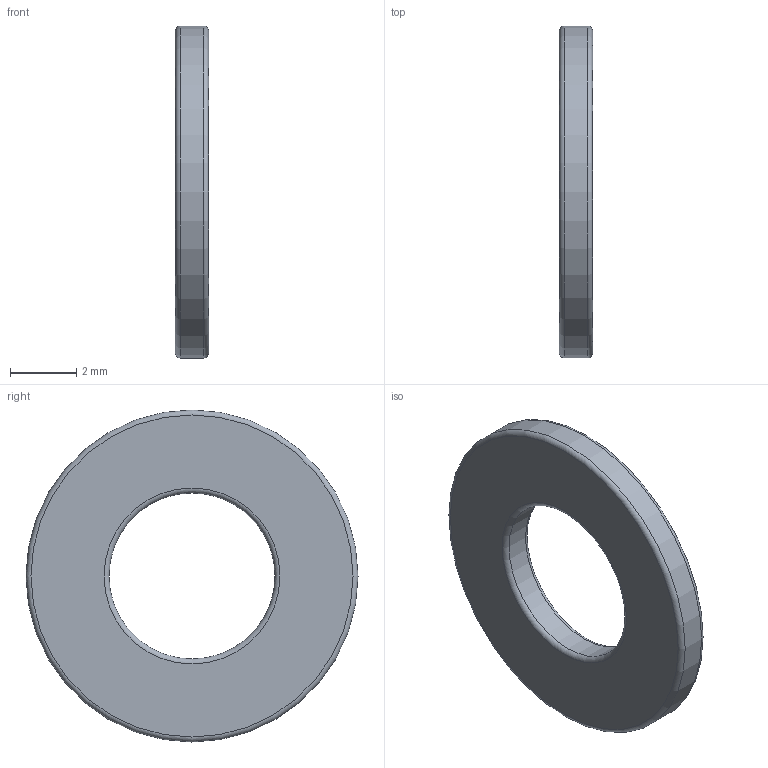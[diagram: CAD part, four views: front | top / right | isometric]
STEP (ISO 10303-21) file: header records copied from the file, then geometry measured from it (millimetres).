
FILE_DESCRIPTION(/* description */ ('STEP AP242 Edition 2','CAx-IF Rec.Pracs.---Representation and Presentation of Product Manufacturing Information (PMI)---4.0---2014-10-13','CAx-IF Rec.Pracs.---3D Tessellated Geometry---0.4---2014-09-14','2;1','CAx-IF Rec.Pracs.---User Defined Attributes---1.5---2016-08-15'),/* implementation_level */ '2;1');
FILE_NAME(/* name */ 'Final Build - Washer_10',/* time_stamp */ '2026-08-31T23:26:29Z',/* author */ (''),/* organization */ (''),/* preprocessor_version */ 'ST-DEVELOPER v20',/* originating_system */ 'ONSHAPE BY PTC INC, 1.220',/* authorisation */ ' ');
FILE_SCHEMA (('AP242_MANAGED_MODEL_BASED_3D_ENGINEERING_MIM_LF { 1 0 10303 442 3 1 4 }'));
Length unit declared in the file: metre
Products named in the file (1): Washer_10
Bounding box: 1 x 10 x 10 mm (x, y, z)
Volume: 58.4 mm3; surface area: 158.9 mm2
Topology: 1 solids, 1 shells, 8 faces, 14 edges, 8 vertices
Faces by surface type: torus 4, cylinder 2, plane 2
Full cylindrical faces by diameter (mm): 5 x1, 10 x1
Entity records: 247 total; most frequent: DIRECTION 34, CARTESIAN_POINT 25, AXIS2_PLACEMENT_3D 17, ORIENTED_EDGE 16, EDGE_LOOP 16, FACE_BOUND 16, PRESENTATION_STYLE_ASSIGNMENT 9, SURFACE_STYLE_USAGE 9
